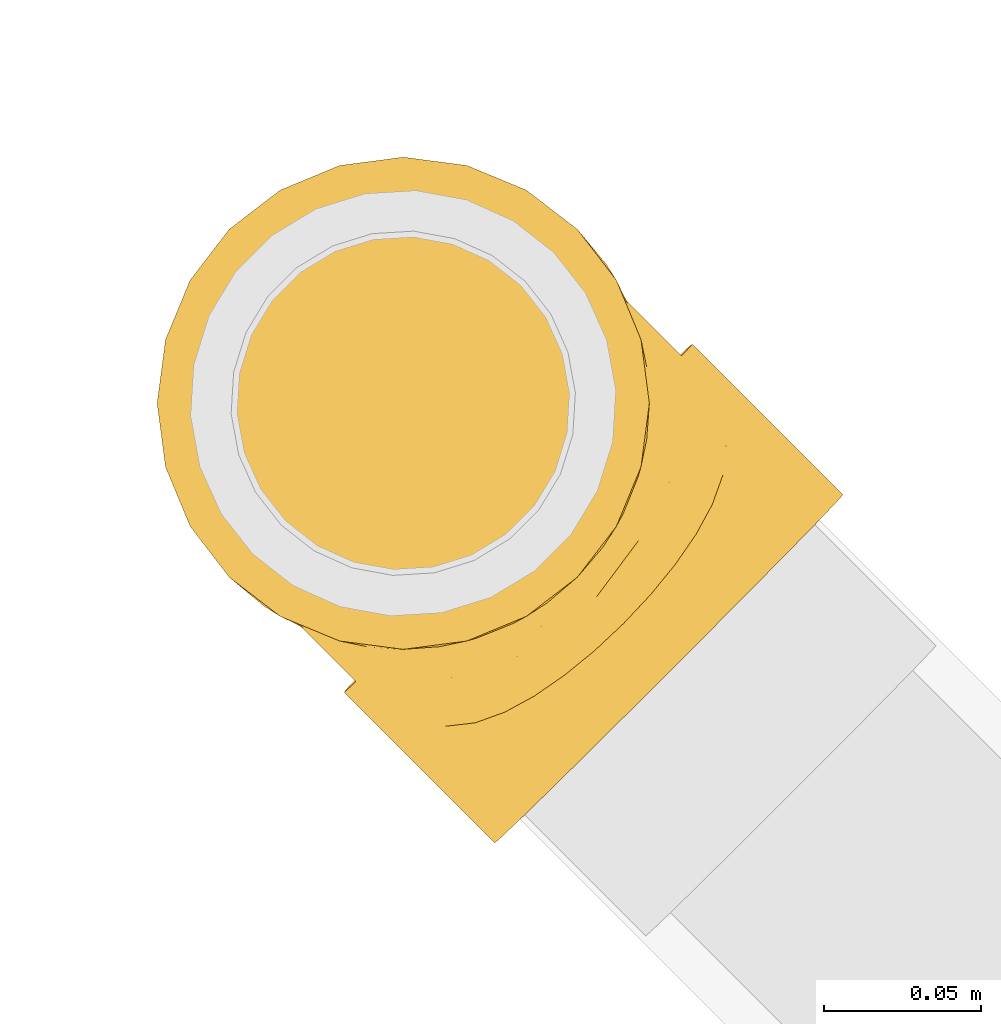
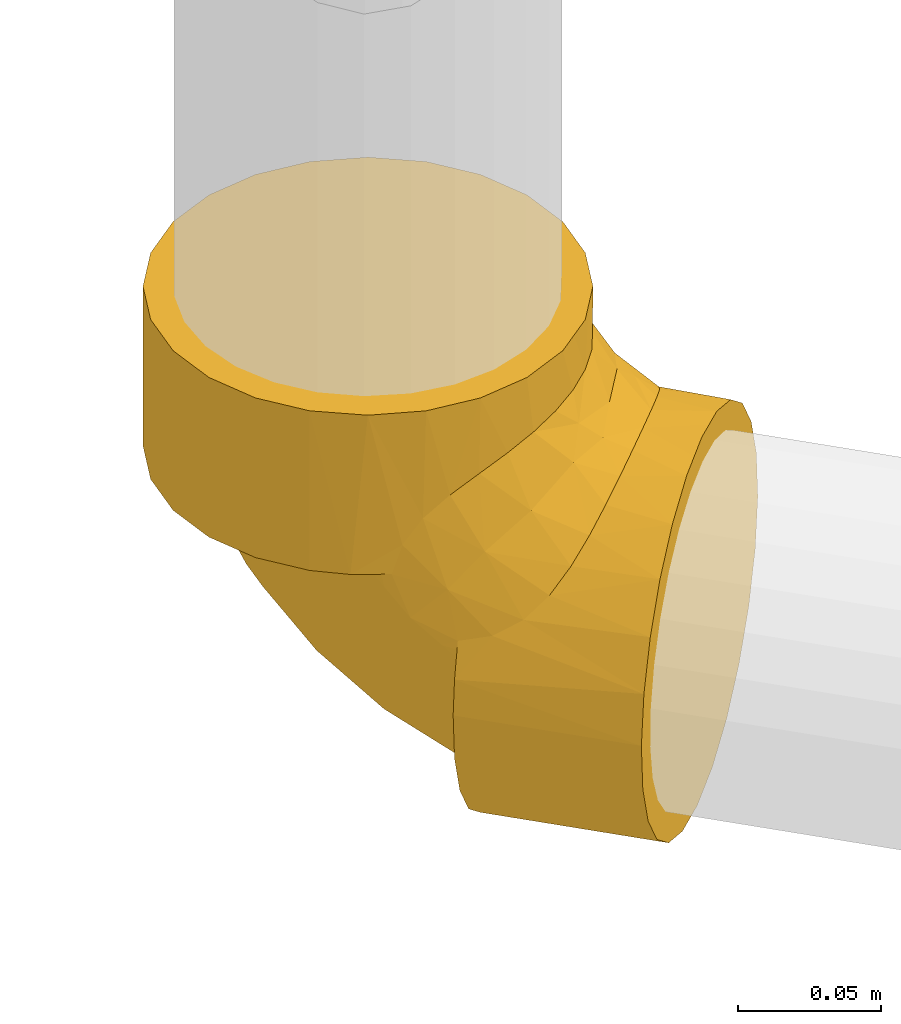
# One storey, part 12 of 108: 1 covering.
"""IFC2X3 building model written with IfcOpenShell, lengths in millimetres."""

from ifc_helpers import new_model, entity, si_unit, converted_unit, derived_unit, direction, frame, origin_with_axes, place, context, subcontext, project, spatial, open_shell, surface_model, source, transform, mapped, element, save


model = new_model("IFC2X3")

# Units and contexts
model_context = context("Model", 3, precision=0.01, world=frame((0.0, 4.29681676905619e-09, 0.0)), true_north=direction((4.01073788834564e-13, 1.0)))
plan_context = context("Plan", 3, precision=0.01, world=frame((0.0, 4.29681676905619e-09, 0.0)), true_north=direction((4.01073788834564e-13, 1.0)))
body_context = subcontext(model_context, "Body", "Model", "MODEL_VIEW")
ifc_project = project(units=[converted_unit("PLANEANGLEUNIT", "DEGREE", entity("IfcPositiveLengthMeasure", 0.0174532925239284), si_unit("PLANEANGLEUNIT", "RADIAN"), dimensions=[0, 0, 0, 0, 0, 0, 0]), si_unit("AREAUNIT", "SQUARE_METRE"), si_unit("LENGTHUNIT", "METRE", prefix="MILLI"), si_unit("MASSUNIT", "GRAM", prefix="KILO"), si_unit("POWERUNIT", "WATT"), si_unit("PRESSUREUNIT", "PASCAL", prefix="KILO"), si_unit("FORCEUNIT", "NEWTON", prefix="KILO"), si_unit("ELECTRICVOLTAGEUNIT", "VOLT"), si_unit("ELECTRICCURRENTUNIT", "AMPERE"), si_unit("THERMODYNAMICTEMPERATUREUNIT", "DEGREE_CELSIUS"), si_unit("TIMEUNIT", "SECOND"), si_unit("VOLUMEUNIT", "CUBIC_METRE"), derived_unit("LINEARVELOCITYUNIT", [(si_unit("LENGTHUNIT", "METRE"), 1), (si_unit("TIMEUNIT", "SECOND"), -1)]), derived_unit("VOLUMETRICFLOWRATEUNIT", [(si_unit("VOLUMEUNIT", "CUBIC_METRE"), 1), (si_unit("TIMEUNIT", "SECOND"), -1)]), derived_unit("THERMALTRANSMITTANCEUNIT", [(si_unit("POWERUNIT", "WATT"), 1), (si_unit("THERMODYNAMICTEMPERATUREUNIT", "KELVIN"), -1), (si_unit("AREAUNIT", "SQUARE_METRE"), -1)]), derived_unit("SOUNDPRESSUREUNIT", [(si_unit("PRESSUREUNIT", "PASCAL"), 1)])], contexts=[model_context, plan_context])

# Site, building, storey
site_placement = place(None, frame((0.0, -4.29681676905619e-09, 0.0), z_axis=(0.0, 0.0, 1.0), x_axis=(1.0, 0.0, 0.0)))
site = spatial("IfcSite", under=ifc_project, at=site_placement, CompositionType="ELEMENT")
building_placement = place(site_placement, frame((0.0, 4.29681676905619e-09, 0.0), z_axis=(0.0, 0.0, 1.0), x_axis=(1.0, 0.0, 0.0)))
building = spatial("IfcBuilding", under=site, at=building_placement, Name="mc-building", CompositionType="ELEMENT")
storey_placement = place(building_placement, frame((0.0, 0.0, 210200.0), z_axis=(0.0, 0.0, 1.0), x_axis=(1.0, 0.0, 0.0)))
storey = spatial("IfcBuildingStorey", under=building, at=storey_placement, Name="Nivå F - 0,7 m", CompositionType="ELEMENT", Elevation=210200.0)

# Covering
shared_shape = source(origin_with_axes(), body_context, "Body", "SurfaceModel", [
    surface_model("IfcShellBasedSurfaceModel", [(-51.80252, 0.0, -78.5), (-51.80252, 14.36612, -77.17425), (-51.80252, 5.6383, -72.35703), (-51.80252, 20.91504, -73.5), (-51.80252, 24.56162, -73.43881), (-51.80252, -9.27174, -68.76607), (-51.80252, -20.31729, -75.82518), (-51.80252, 28.2042, -73.25826), (-51.80252, -23.31083, -62.59185), (-51.80252, -39.25, -67.983), (-51.80252, -35.91477, -53.8583), (-51.80252, -55.50788, -55.50788), (-51.80252, -46.49952, -42.76725), (-51.80252, -67.983, -39.25), (-51.80252, -54.51871, -29.70312), (-51.80252, -59.52523, -15.21649), (-51.80252, -75.82518, -20.31729), (-51.80252, -78.5, 0.0), (-51.80252, -61.22582, 0.0), (-51.80252, -23.31083, 62.59185), (-51.80252, -9.27174, 68.76607), (-51.80252, -20.31729, 75.82518), (-51.80252, 5.6383, 72.35703), (-51.80252, 0.0, 78.5), (-51.80252, 20.91504, 73.5), (-51.80252, 24.56162, 73.43881), (-51.80252, 14.36645, 77.17419), (-51.80252, 28.2042, 73.25826), (-51.80252, -39.25, 67.983), (-51.80252, -59.52523, 15.21649), (-51.80252, -54.51871, 29.70312), (-51.80252, -75.82518, 20.31729), (-51.80252, -67.983, 39.25), (-51.80252, -35.91477, 53.8583), (-51.80252, -55.50788, 55.50788), (-51.80252, -46.49952, 42.76725), (-119.80252, 20.31729, 75.82518), (-119.80252, -20.31729, 75.82518), (-119.80252, 0.0, 78.5), (-119.80252, 55.50788, 55.50788), (-119.80252, 39.25, 67.983), (-119.80252, 67.983, 39.25), (-119.80252, 75.82518, 20.31729), (-119.80252, -39.25, 67.983), (-119.80252, -78.5, 0.0), (-119.80252, -55.50788, 55.50788), (-119.80252, -75.82518, 20.31729), (-119.80252, -67.983, 39.25), (-119.80252, 78.5, 0.0), (-119.80252, -67.983, -39.25), (-119.80252, 75.82518, -20.31729), (-119.80252, 39.25, -67.983), (-119.80252, 67.983, -39.25), (-119.80252, 20.31729, -75.82518), (-119.80252, 55.50788, -55.50788), (-119.80252, -39.25, -67.983), (-119.80252, -55.50788, -55.50788), (-119.80252, -75.82518, -20.31729), (-119.80252, 0.0, -78.5), (-119.80252, -20.31729, -75.82518), (-98.19106, 77.47891, 12.62014), (-119.80252, 77.16259, 10.15865), (-91.93752, 63.02644, 46.79656), (-96.98669, 74.45802, 24.86469), (-98.58931, 78.5, 0.0), (-94.93633, 69.56634, 36.36996), (-87.7743, 55.18462, 55.82927), (-82.05218, 46.5999, 63.17198), (-74.20659, 38.25749, 68.54644), (-63.89407, 31.69435, 71.81726), (-74.20659, 38.25749, -68.54644), (-82.05218, 46.5999, -63.17198), (-98.19106, 77.47891, -12.62014), (-119.80252, 77.16259, -10.15865), (-63.89407, 31.69435, -71.81726), (-91.93752, 63.02644, -46.79656), (-96.98669, 74.45802, -24.86469), (-87.7743, 55.18462, -55.82927), (-94.93633, 69.56634, -36.36996), (56.02034, 51.2479, -55.50788), (47.01242, 51.33749, -42.76725), (36.4282, 51.44276, -53.8583), (68.49483, 51.12383, -39.25), (39.76326, 51.40959, -67.983), (23.82487, 51.56811, -62.59185), (76.33663, 51.04583, -20.31729), (55.03122, 51.25774, -29.70312), (60.03749, 51.20794, -15.21649), (79.01132, 51.01923, 0.0), (61.738, 51.19103, 0.0), (-5.12281, 51.85603, -72.35703), (-13.85021, 51.94283, -77.17425), (0.5152, 51.79995, -78.5), (-20.3988, 52.00796, -73.5), (-24.0452, 52.04423, -73.43881), (20.83149, 51.59789, -75.82518), (9.78649, 51.70774, -68.76607), (-27.68761, 52.08046, -73.25826), (76.33663, 51.04583, 20.31729), (60.03749, 51.20794, 15.21649), (55.03122, 51.25774, 29.70312), (68.49483, 51.12383, 39.25), (56.02034, 51.2479, 55.50788), (47.01242, 51.33749, 42.76725), (36.4282, 51.44276, 53.8583), (39.76326, 51.40959, 67.983), (23.82487, 51.56811, 62.59185), (9.78649, 51.70774, 68.76607), (20.83149, 51.59789, 75.82518), (0.5152, 51.79995, 78.5), (-5.12281, 51.85603, 72.35703), (-13.85021, 51.94283, 77.17425), (-24.0452, 52.04423, 73.43881), (-20.3988, 52.00796, 73.5), (-27.68761, 52.08046, 73.25826), (1.1915, 119.79659, 78.5), (-66.78813, 120.47272, -39.25), (-77.30462, 120.57731, 0.0), (21.50779, 119.59453, 75.82518), (-19.12479, 119.99865, -75.82518), (56.69664, 119.24454, 55.50788), (69.17113, 119.12046, 39.25), (40.43956, 119.40623, 67.983), (-54.31364, 120.34865, -55.50788), (-19.12479, 119.99865, 75.82518), (-54.31364, 120.34865, 55.50788), (-38.05656, 120.18695, 67.983), (-66.78813, 120.47272, 39.25), (-74.62993, 120.55071, 20.31729), (77.01292, 119.04247, 20.31729), (77.01292, 119.04247, -20.31729), (21.50779, 119.59453, -75.82518), (69.17113, 119.12046, -39.25), (40.43956, 119.40623, -67.983), (56.69664, 119.24454, -55.50788), (-74.62993, 120.55071, -20.31729), (-38.05656, 120.18695, -67.983), (1.1915, 119.79659, -78.5), (79.68761, 119.01586, 0.0), (-37.51758, 74.58341, 68.54644), (-45.78154, 82.51158, 63.17198), (-76.49852, 98.95678, 12.62014), (-75.96727, 120.56402, 10.15865), (-31.05732, 64.20613, 71.81726), (-62.10895, 92.5598, 46.79656), (-77.51559, 99.36516, 0.0), (-73.48975, 97.72242, 24.86469), (-54.30893, 88.3188, 55.82927), (-68.61871, 95.62351, 36.36996), (-76.49852, 98.95678, -12.62014), (-75.96727, 120.56402, -10.15865), (-73.48975, 97.72242, -24.86469), (-62.10895, 92.5598, -46.79656), (-68.61871, 95.62351, -36.36996), (-54.30893, 88.3188, -55.82927), (-45.78154, 82.51158, -63.17198), (-37.51758, 74.58341, -68.54644), (-31.05732, 64.20613, -71.81726), (6.56485, -6.63048, 44.35773), (-17.37613, -35.15693, 32.84784), (12.25198, -12.37445, 30.90043), (-22.06999, -47.16243, 0.0), (-9.98565, -36.79388, 18.06127), (4.86776, -28.29022, 0.0), (36.89137, 9.61921, 18.06127), (15.51905, -15.67418, 17.71827), (28.24041, -5.14888, 0.0), (18.71808, 26.1832, 56.62203), (-18.42611, -25.66316, 46.04484), (0.20431, -0.20636, 54.27248), (-26.36807, -18.45675, 56.62203), (-13.82749, 2.47818, 62.92008), (-17.11595, 17.28704, 69.13633), (25.84515, 18.16996, 46.04484), (-34.66913, 35.01566, 73.5), (47.37959, 21.59984, 0.0), (35.328, 17.02561, 32.84784), (5.95414, 26.83358, 64.0208), (-47.4095, 47.88338, 71.23451), (-60.93468, 59.45478, 64.17297), (-80.92449, 82.7461, 31.39464), (-46.15164, 25.56566, 73.5), (-40.50077, 30.21627, 73.5), (-29.81198, 40.79928, 73.5), (-25.10539, 46.40362, 73.5), (-71.89706, 72.61571, 51.01536), (-86.38238, 87.24582, 0.0), (-89.22245, 81.36552, 19.23038), (-82.19862, 89.20606, 15.91333), (-84.82837, 84.05519, -22.0118), (-77.10622, 77.87694, -42.00302), (-65.4913, 78.30707, -52.02716), (-74.10801, 65.91847, -54.39408), (-60.04002, 60.64015, -64.04649), (-47.4095, 47.88338, -71.23451), (-76.56542, 87.95519, -31.13187), (-25.10539, 46.40362, -73.5), (-29.81198, 40.79928, -73.5), (-46.15164, 25.56566, -73.5), (-34.66913, 35.01566, -73.5), (-40.50077, 30.21627, -73.5), (-18.42611, -25.66316, -46.04484), (25.84515, 18.16996, -46.04484), (18.71808, 26.1832, -56.62203), (-13.82749, 2.47818, -62.92008), (0.20431, -0.20636, -54.27248), (-26.36807, -18.45675, -56.62203), (-17.11595, 17.28704, -69.13633), (5.95414, 26.83358, -64.0208), (35.328, 17.02561, -32.84784), (-17.37613, -35.15693, -32.84784), (6.56485, -6.63048, -44.35773), (36.89137, 9.61921, -18.06127), (15.51905, -15.67418, -17.71827), (12.25198, -12.37445, -30.90043), (-9.98565, -36.79388, -18.06127)], [open_shell([[[0, 1, 2]], [[3, 1, 4]], [[5, 6, 0]], [[2, 1, 3]], [[7, 4, 1]], [[5, 8, 6]], [[2, 5, 0]], [[6, 8, 9]], [[9, 10, 11]], [[10, 9, 8]], [[11, 12, 13]], [[12, 11, 10]], [[14, 15, 16]], [[14, 16, 13]], [[17, 16, 15]], [[17, 15, 18]], [[14, 13, 12]], [[19, 20, 21]], [[22, 23, 20]], [[24, 25, 26]], [[23, 21, 20]], [[22, 26, 23]], [[25, 27, 26]], [[22, 24, 26]], [[19, 21, 28]], [[29, 30, 31]], [[31, 17, 29]], [[30, 32, 31]], [[17, 18, 29]], [[33, 28, 34]], [[28, 33, 19]], [[32, 35, 34]], [[35, 32, 30]], [[34, 35, 33]], [[36, 37, 38]], [[39, 36, 40]], [[39, 41, 42]], [[36, 39, 37]], [[42, 37, 39]], [[43, 44, 45]], [[44, 43, 37]], [[45, 46, 47]], [[46, 45, 44]], [[37, 42, 44]], [[42, 48, 44]], [[49, 44, 50]], [[51, 50, 52]], [[51, 53, 50]], [[51, 52, 54]], [[49, 50, 53]], [[49, 55, 56]], [[57, 44, 49]], [[55, 58, 59]], [[55, 49, 53]], [[58, 55, 53]], [[44, 48, 50]], [[60, 61, 42]], [[41, 39, 62]], [[63, 42, 41]], [[64, 48, 61]], [[65, 63, 41]], [[62, 65, 41]], [[60, 42, 63]], [[39, 66, 62]], [[66, 39, 67]], [[68, 40, 36]], [[40, 68, 67]], [[39, 40, 67]], [[26, 36, 38]], [[64, 61, 60]], [[68, 36, 69]], [[69, 26, 27]], [[36, 26, 69]], [[38, 23, 26]], [[43, 45, 28]], [[23, 38, 21]], [[37, 28, 21]], [[28, 37, 43]], [[38, 37, 21]], [[45, 34, 28]], [[32, 47, 46]], [[31, 46, 44]], [[34, 47, 32]], [[32, 46, 31]], [[44, 17, 31]], [[47, 34, 45]], [[16, 57, 49]], [[13, 49, 56]], [[17, 44, 16]], [[16, 44, 57]], [[49, 13, 16]], [[56, 11, 13]], [[9, 55, 59]], [[6, 59, 58]], [[11, 55, 9]], [[9, 59, 6]], [[58, 0, 6]], [[55, 11, 56]], [[1, 58, 53]], [[53, 51, 70]], [[71, 51, 54]], [[71, 70, 51]], [[0, 58, 1]], [[72, 50, 73]], [[74, 7, 1]], [[74, 1, 53]], [[70, 74, 53]], [[75, 54, 52]], [[73, 48, 64]], [[52, 50, 76]], [[64, 72, 73]], [[75, 77, 54]], [[76, 78, 52]], [[72, 76, 50]], [[75, 52, 78]], [[54, 77, 71]], [[79, 80, 81]], [[80, 79, 82]], [[83, 81, 84]], [[81, 83, 79]], [[82, 85, 86]], [[87, 86, 85]], [[88, 89, 87]], [[87, 85, 88]], [[82, 86, 80]], [[90, 91, 92]], [[91, 93, 94]], [[90, 93, 91]], [[92, 95, 96]], [[84, 96, 95]], [[94, 97, 91]], [[96, 90, 92]], [[95, 83, 84]], [[88, 98, 99]], [[100, 99, 98]], [[98, 101, 100]], [[101, 102, 103]], [[102, 104, 103]], [[104, 102, 105]], [[104, 105, 106]], [[101, 103, 100]], [[107, 106, 108]], [[107, 109, 110]], [[111, 110, 109]], [[112, 113, 111]], [[113, 110, 111]], [[112, 111, 114]], [[109, 107, 108]], [[106, 105, 108]], [[99, 89, 88]], [[115, 116, 117]], [[115, 118, 116]], [[119, 120, 121]], [[116, 118, 122]], [[123, 122, 120]], [[124, 125, 126]], [[125, 124, 117]], [[127, 117, 128]], [[117, 127, 125]], [[124, 115, 117]], [[119, 121, 129]], [[129, 130, 131]], [[131, 130, 132]], [[133, 131, 132]], [[133, 132, 134]], [[129, 131, 119]], [[123, 116, 122]], [[135, 117, 116]], [[123, 119, 136]], [[120, 119, 123]], [[119, 131, 137]], [[130, 129, 138]], [[98, 129, 121]], [[101, 121, 120]], [[138, 129, 88]], [[88, 129, 98]], [[121, 101, 98]], [[120, 102, 101]], [[105, 122, 118]], [[108, 118, 115]], [[102, 122, 105]], [[105, 118, 108]], [[115, 109, 108]], [[122, 102, 120]], [[111, 115, 124]], [[124, 126, 139]], [[140, 126, 125]], [[140, 139, 126]], [[109, 115, 111]], [[141, 128, 142]], [[143, 114, 111]], [[143, 111, 124]], [[139, 143, 124]], [[144, 125, 127]], [[142, 117, 145]], [[127, 128, 146]], [[145, 141, 142]], [[144, 147, 125]], [[146, 148, 127]], [[141, 146, 128]], [[144, 127, 148]], [[125, 147, 140]], [[149, 150, 135]], [[151, 135, 116]], [[152, 116, 123]], [[145, 117, 150]], [[153, 151, 116]], [[152, 153, 116]], [[149, 135, 151]], [[123, 154, 152]], [[154, 123, 155]], [[156, 136, 119]], [[136, 156, 155]], [[123, 136, 155]], [[91, 119, 137]], [[145, 150, 149]], [[156, 119, 157]], [[157, 91, 97]], [[119, 91, 157]], [[137, 92, 91]], [[95, 131, 133]], [[83, 133, 134]], [[137, 131, 92]], [[92, 131, 95]], [[133, 83, 95]], [[134, 79, 83]], [[82, 132, 130]], [[85, 130, 138]], [[79, 132, 82]], [[82, 130, 85]], [[138, 88, 85]], [[132, 79, 134]], [[158, 159, 160]], [[29, 18, 161]], [[162, 161, 163]], [[164, 165, 166]], [[104, 106, 167]], [[162, 30, 29]], [[35, 159, 168]], [[29, 161, 162]], [[168, 169, 170]], [[170, 19, 33]], [[19, 170, 171]], [[100, 164, 99]], [[19, 171, 20]], [[172, 22, 20]], [[169, 158, 173]], [[159, 35, 30]], [[22, 174, 24]], [[107, 110, 172]], [[160, 165, 164]], [[175, 99, 164]], [[173, 104, 167]], [[176, 103, 173]], [[160, 162, 165]], [[104, 173, 103]], [[176, 173, 158]], [[99, 175, 89]], [[106, 107, 177]], [[173, 167, 169]], [[160, 159, 162]], [[167, 106, 177]], [[174, 110, 113]], [[22, 172, 174]], [[160, 164, 176]], [[33, 35, 168]], [[174, 172, 110]], [[177, 171, 169]], [[169, 167, 177]], [[171, 170, 169]], [[177, 172, 171]], [[168, 170, 33]], [[20, 171, 172]], [[164, 166, 175]], [[172, 177, 107]], [[158, 169, 168]], [[30, 162, 159]], [[164, 100, 176]], [[103, 176, 100]], [[162, 163, 165]], [[166, 165, 163]], [[159, 158, 168]], [[176, 158, 160]], [[68, 178, 179]], [[144, 148, 180]], [[27, 178, 69]], [[27, 25, 181]], [[27, 182, 174]], [[178, 27, 174]], [[183, 184, 114]], [[139, 178, 143]], [[185, 66, 179]], [[62, 66, 185]], [[68, 179, 67]], [[186, 64, 187]], [[180, 65, 185]], [[65, 62, 185]], [[25, 24, 181]], [[188, 187, 180]], [[187, 64, 60]], [[146, 141, 188]], [[146, 188, 180]], [[114, 178, 174]], [[183, 114, 174]], [[112, 184, 113]], [[67, 179, 66]], [[181, 182, 27]], [[140, 147, 179]], [[140, 179, 139]], [[139, 179, 178]], [[179, 147, 185]], [[188, 145, 186]], [[188, 141, 145]], [[114, 184, 112]], [[180, 187, 65]], [[144, 180, 185]], [[178, 68, 69]], [[60, 63, 187]], [[148, 146, 180]], [[144, 185, 147]], [[186, 187, 188]], [[143, 178, 114]], [[187, 63, 65]], [[76, 189, 78]], [[189, 186, 149]], [[78, 189, 190]], [[72, 64, 186]], [[191, 152, 154]], [[72, 189, 76]], [[186, 189, 72]], [[190, 192, 75]], [[193, 194, 70]], [[192, 193, 71]], [[75, 192, 77]], [[190, 189, 195]], [[196, 197, 97]], [[7, 74, 194]], [[198, 3, 4]], [[94, 93, 196]], [[7, 199, 200]], [[71, 77, 192]], [[70, 71, 193]], [[191, 192, 190]], [[153, 195, 151]], [[152, 195, 153]], [[152, 190, 195]], [[156, 194, 193]], [[149, 195, 189]], [[195, 149, 151]], [[155, 193, 191]], [[75, 78, 190]], [[193, 192, 191]], [[94, 196, 97]], [[7, 194, 199]], [[200, 198, 7]], [[97, 197, 199]], [[194, 97, 199]], [[70, 194, 74]], [[7, 198, 4]], [[191, 154, 155]], [[97, 194, 157]], [[156, 157, 194]], [[156, 193, 155]], [[149, 186, 145]], [[152, 191, 190]], [[10, 201, 12]], [[202, 203, 81]], [[204, 205, 206]], [[204, 206, 8]], [[201, 206, 205]], [[5, 207, 204]], [[207, 96, 208]], [[207, 2, 199]], [[161, 18, 15]], [[80, 209, 202]], [[96, 84, 208]], [[210, 201, 211]], [[212, 213, 214]], [[86, 87, 212]], [[84, 81, 203]], [[163, 161, 215]], [[207, 208, 204]], [[211, 209, 214]], [[2, 3, 199]], [[208, 205, 204]], [[199, 93, 90]], [[81, 80, 202]], [[214, 215, 210]], [[207, 5, 2]], [[10, 8, 206]], [[205, 211, 201]], [[209, 80, 86]], [[203, 205, 208]], [[211, 205, 202]], [[203, 202, 205]], [[166, 163, 213]], [[214, 209, 212]], [[213, 215, 214]], [[201, 210, 12]], [[87, 89, 175]], [[14, 215, 15]], [[161, 15, 215]], [[212, 175, 166]], [[90, 96, 207]], [[201, 10, 206]], [[84, 203, 208]], [[90, 207, 199]], [[8, 5, 204]], [[87, 175, 212]], [[86, 212, 209]], [[215, 14, 210]], [[12, 210, 14]], [[166, 213, 212]], [[163, 215, 213]], [[209, 211, 202]], [[210, 211, 214]]])]),
])
covering_placement = place(storey_placement, frame((326179.08055, 464099.21054, 3101.37404), z_axis=(-0.707089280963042, -0.70712428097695, 0.0), x_axis=(0.0, 0.0, -1.0)))
element("IfcCovering", 1, at=covering_placement, inside=storey, Name="BI17T - Cellegummi 13 mm SPV fett", PredefinedType="INSULATION", context=body_context, shape_type="MappedRepresentation", body=[
    mapped(shared_shape, transform((0.0, 0.0, 0.0), scale=1.0)),
])

save(model, "model.ifc")
